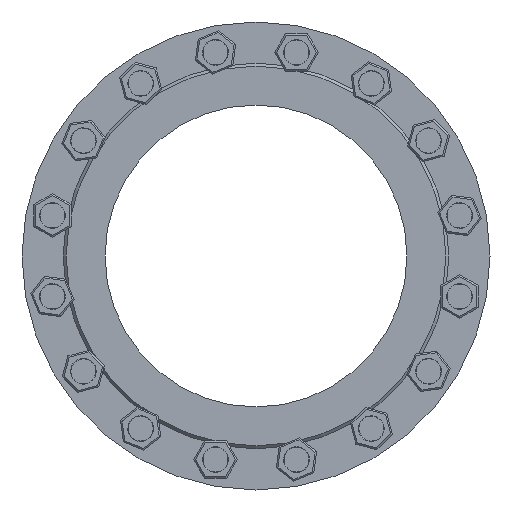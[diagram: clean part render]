
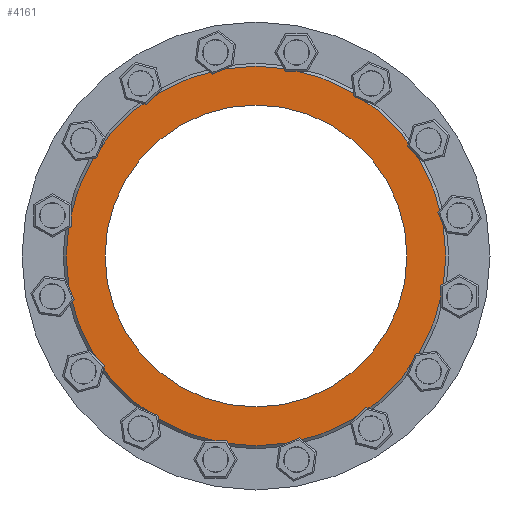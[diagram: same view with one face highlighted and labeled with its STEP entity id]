
A CAD part, left-side view. The second image highlights one B-rep face of the part: STEP entity #4161.
In plain terms, the highlighted planar face has unit normal (-1, 0, 0).
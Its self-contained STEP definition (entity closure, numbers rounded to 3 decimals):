
#348 = DIRECTION ( 'NONE',  ( -1., 0., 0. ) ) ;
#1409 = CARTESIAN_POINT ( 'NONE',  ( 0., 0., 0. ) ) ;
#4161 = ADVANCED_FACE ( 'NONE', ( #35354, #20744 ), #13549, .F. ) ;
#4372 = AXIS2_PLACEMENT_3D ( 'NONE', #10766, #348, #25884 ) ;
#7293 = EDGE_CURVE ( 'NONE', #20820, #20820, #47417, .T. ) ;
#10766 = CARTESIAN_POINT ( 'NONE',  ( 0., 0., 0. ) ) ;
#13549 = PLANE ( 'NONE',  #21706 ) ;
#13607 = EDGE_LOOP ( 'NONE', ( #35095 ) ) ;
#20181 = CIRCLE ( 'NONE', #4372, 200. ) ;
#20744 = FACE_OUTER_BOUND ( 'NONE', #13607, .T. ) ;
#20820 = VERTEX_POINT ( 'NONE', #25267 ) ;
#21116 = EDGE_CURVE ( 'NONE', #45451, #45451, #20181, .T. ) ;
#21706 = AXIS2_PLACEMENT_3D ( 'NONE', #1409, #46764, #36093 ) ;
#25267 = CARTESIAN_POINT ( 'NONE',  ( 0., 0., 251.5 ) ) ;
#25884 = DIRECTION ( 'NONE',  ( 0., 0., 1. ) ) ;
#26055 = CARTESIAN_POINT ( 'NONE',  ( 0., 0., 0. ) ) ;
#26822 = AXIS2_PLACEMENT_3D ( 'NONE', #26055, #45872, #42138 ) ;
#35095 = ORIENTED_EDGE ( 'NONE', *, *, #7293, .T. ) ;
#35354 = FACE_BOUND ( 'NONE', #35708, .T. ) ;
#35708 = EDGE_LOOP ( 'NONE', ( #37920 ) ) ;
#36093 = DIRECTION ( 'NONE',  ( 0., 0., -1. ) ) ;
#37920 = ORIENTED_EDGE ( 'NONE', *, *, #21116, .F. ) ;
#42138 = DIRECTION ( 'NONE',  ( 0., 0., 1. ) ) ;
#44710 = CARTESIAN_POINT ( 'NONE',  ( 0., 0., 200. ) ) ;
#45451 = VERTEX_POINT ( 'NONE', #44710 ) ;
#45872 = DIRECTION ( 'NONE',  ( -1., 0., 0. ) ) ;
#46764 = DIRECTION ( 'NONE',  ( 1., 0., 0. ) ) ;
#47417 = CIRCLE ( 'NONE', #26822, 251.5 ) ;
